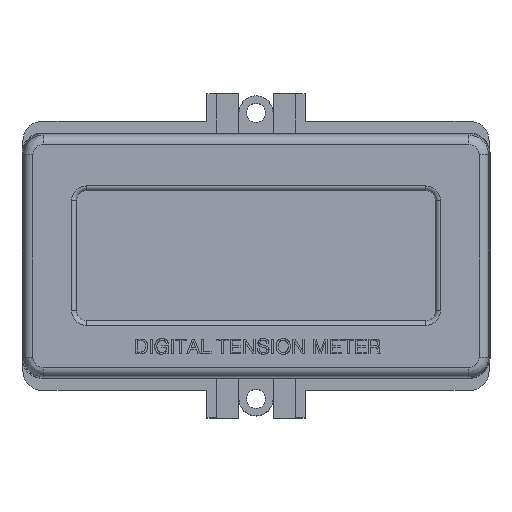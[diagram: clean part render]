
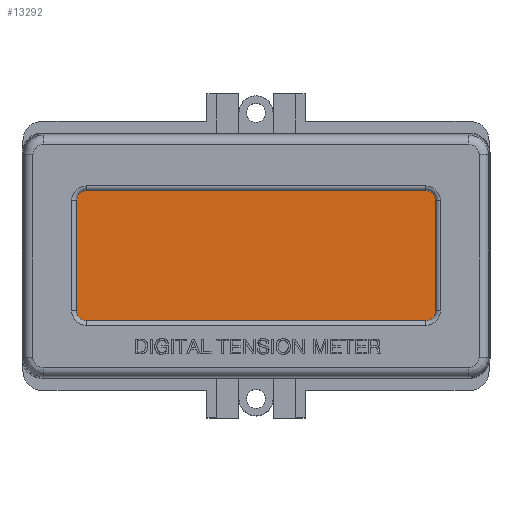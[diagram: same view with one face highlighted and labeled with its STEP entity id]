
A CAD part, top view. The second image highlights one B-rep face of the part: STEP entity #13292.
In plain terms, the highlighted planar face has unit normal (0, 0, 1).
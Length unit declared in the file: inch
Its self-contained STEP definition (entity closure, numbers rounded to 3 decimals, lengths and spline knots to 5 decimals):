
#12523=CARTESIAN_POINT('',(1.136,0.349,0.074));
#12524=VERTEX_POINT('',#12523);
#12531=CARTESIAN_POINT('',(1.136,-0.349,0.074));
#12532=VERTEX_POINT('',#12531);
#12533=CARTESIAN_POINT('',(1.136,-0.349,0.074));
#12534=DIRECTION('',(0.0,1.0,0.0));
#12535=VECTOR('',#12534,0.698);
#12536=LINE('',#12533,#12535);
#12537=EDGE_CURVE('',#12532,#12524,#12536,.T.);
#12554=CARTESIAN_POINT('',(1.0735,0.4115,0.074));
#12555=VERTEX_POINT('',#12554);
#12562=CARTESIAN_POINT('',(1.0735,0.349,0.074));
#12563=DIRECTION('',(0.0,0.0,1.0));
#12564=DIRECTION('',(-1.0,0.0,0.0));
#12565=AXIS2_PLACEMENT_3D('',#12562,#12563,#12564);
#12566=CIRCLE('',#12565,0.0625);
#12567=EDGE_CURVE('',#12524,#12555,#12566,.T.);
#12579=CARTESIAN_POINT('',(-1.0735,0.4115,0.074));
#12580=VERTEX_POINT('',#12579);
#12587=CARTESIAN_POINT('',(1.0735,0.4115,0.074));
#12588=DIRECTION('',(-1.0,0.0,0.0));
#12589=VECTOR('',#12588,2.147);
#12590=LINE('',#12587,#12589);
#12591=EDGE_CURVE('',#12555,#12580,#12590,.T.);
#12603=CARTESIAN_POINT('',(-1.136,0.349,0.074));
#12604=VERTEX_POINT('',#12603);
#12611=CARTESIAN_POINT('',(-1.0735,0.349,0.074));
#12612=DIRECTION('',(0.0,0.0,1.0));
#12613=DIRECTION('',(0.0,-1.0,0.0));
#12614=AXIS2_PLACEMENT_3D('',#12611,#12612,#12613);
#12615=CIRCLE('',#12614,0.0625);
#12616=EDGE_CURVE('',#12580,#12604,#12615,.T.);
#13192=CARTESIAN_POINT('',(-1.136,-0.349,0.074));
#13193=VERTEX_POINT('',#13192);
#13200=CARTESIAN_POINT('',(-1.136,0.349,0.074));
#13201=DIRECTION('',(0.0,-1.0,0.0));
#13202=VECTOR('',#13201,0.698);
#13203=LINE('',#13200,#13202);
#13204=EDGE_CURVE('',#12604,#13193,#13203,.T.);
#13216=CARTESIAN_POINT('',(-1.0735,-0.4115,0.074));
#13217=VERTEX_POINT('',#13216);
#13224=CARTESIAN_POINT('',(-1.0735,-0.349,0.074));
#13225=DIRECTION('',(0.0,0.0,1.0));
#13226=DIRECTION('',(1.0,0.0,0.0));
#13227=AXIS2_PLACEMENT_3D('',#13224,#13225,#13226);
#13228=CIRCLE('',#13227,0.0625);
#13229=EDGE_CURVE('',#13193,#13217,#13228,.T.);
#13241=CARTESIAN_POINT('',(1.0735,-0.4115,0.074));
#13242=VERTEX_POINT('',#13241);
#13249=CARTESIAN_POINT('',(-1.0735,-0.4115,0.074));
#13250=DIRECTION('',(1.0,0.0,0.0));
#13251=VECTOR('',#13250,2.147);
#13252=LINE('',#13249,#13251);
#13253=EDGE_CURVE('',#13217,#13242,#13252,.T.);
#13266=CARTESIAN_POINT('',(1.0735,-0.349,0.074));
#13267=DIRECTION('',(0.0,0.0,1.0));
#13268=DIRECTION('',(0.0,1.0,0.0));
#13269=AXIS2_PLACEMENT_3D('',#13266,#13267,#13268);
#13270=CIRCLE('',#13269,0.0625);
#13271=EDGE_CURVE('',#13242,#12532,#13270,.T.);
#13277=CARTESIAN_POINT('',(0.,0.,0.074));
#13278=DIRECTION('',(0.0,0.0,1.0));
#13279=DIRECTION('',(1.0,0.0,0.0));
#13280=AXIS2_PLACEMENT_3D('',#13277,#13278,#13279);
#13281=PLANE('',#13280);
#13282=ORIENTED_EDGE('',*,*,#12616,.T.);
#13283=ORIENTED_EDGE('',*,*,#13204,.T.);
#13284=ORIENTED_EDGE('',*,*,#13229,.T.);
#13285=ORIENTED_EDGE('',*,*,#13253,.T.);
#13286=ORIENTED_EDGE('',*,*,#13271,.T.);
#13287=ORIENTED_EDGE('',*,*,#12537,.T.);
#13288=ORIENTED_EDGE('',*,*,#12567,.T.);
#13289=ORIENTED_EDGE('',*,*,#12591,.T.);
#13290=EDGE_LOOP('',(#13282,#13283,#13284,#13285,#13286,#13287,#13288,#13289));
#13291=FACE_OUTER_BOUND('',#13290,.T.);
#13292=ADVANCED_FACE('',(#13291),#13281,.T.);
